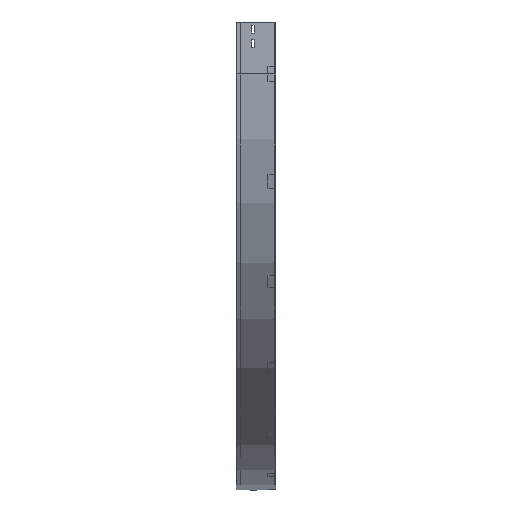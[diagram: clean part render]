
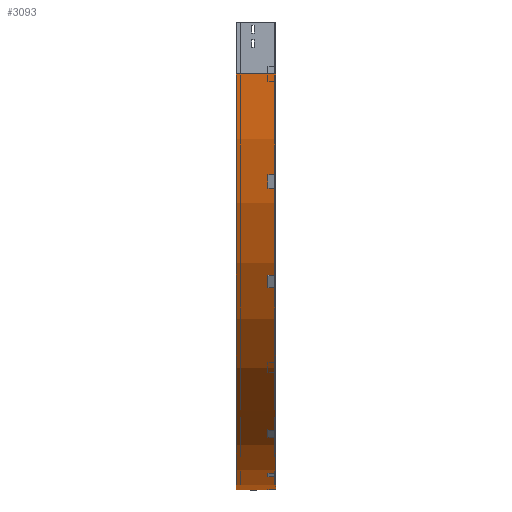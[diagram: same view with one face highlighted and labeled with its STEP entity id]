
A CAD part, left-side view. The second image highlights one B-rep face of the part: STEP entity #3093.
In plain terms, the highlighted cylindrical face has radius 1200 mm (diameter 2400 mm), a partial arc.
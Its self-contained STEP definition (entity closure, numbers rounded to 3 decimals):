
#88 = DIRECTION ( 'NONE',  ( -1., 0., 0. ) ) ;
#96 = DIRECTION ( 'NONE',  ( 0., -1., 0. ) ) ;
#223 = LINE ( 'NONE', #1124, #2115 ) ;
#416 = FACE_OUTER_BOUND ( 'NONE', #1968, .T. ) ;
#674 = DIRECTION ( 'NONE',  ( -1., 0., 0. ) ) ;
#798 = CARTESIAN_POINT ( 'NONE',  ( 0., 112.5, -150. ) ) ;
#1007 = VERTEX_POINT ( 'NONE', #1118 ) ;
#1011 = DIRECTION ( 'NONE',  ( 0., -1., 0. ) ) ;
#1020 = CARTESIAN_POINT ( 'NONE',  ( 0., 0., -150. ) ) ;
#1118 = CARTESIAN_POINT ( 'NONE',  ( 0., 0., -150. ) ) ;
#1124 = CARTESIAN_POINT ( 'NONE',  ( 1200., 0., -1350. ) ) ;
#1222 = EDGE_CURVE ( 'NONE', #1007, #3594, #1335, .T. ) ;
#1225 = ORIENTED_EDGE ( 'NONE', *, *, #3082, .T. ) ;
#1240 = LINE ( 'NONE', #1020, #1949 ) ;
#1258 = DIRECTION ( 'NONE',  ( 0., -1., 0. ) ) ;
#1335 = CIRCLE ( 'NONE', #2536, 1200. ) ;
#1349 = AXIS2_PLACEMENT_3D ( 'NONE', #2159, #1258, #674 ) ;
#1417 = AXIS2_PLACEMENT_3D ( 'NONE', #3694, #2257, #3421 ) ;
#1441 = CARTESIAN_POINT ( 'NONE',  ( 1200., 0., -1350. ) ) ;
#1863 = VERTEX_POINT ( 'NONE', #798 ) ;
#1949 = VECTOR ( 'NONE', #96, 1000. ) ;
#1968 = EDGE_LOOP ( 'NONE', ( #3761, #3437, #1225, #3372 ) ) ;
#2014 = EDGE_CURVE ( 'NONE', #1863, #1007, #1240, .T. ) ;
#2115 = VECTOR ( 'NONE', #2623, 1000. ) ;
#2159 = CARTESIAN_POINT ( 'NONE',  ( 1200., 112.5, -150. ) ) ;
#2230 = CARTESIAN_POINT ( 'NONE',  ( 1200., 0., -150. ) ) ;
#2257 = DIRECTION ( 'NONE',  ( 0., -1., 0. ) ) ;
#2363 = CIRCLE ( 'NONE', #1349, 1200. ) ;
#2536 = AXIS2_PLACEMENT_3D ( 'NONE', #2230, #1011, #88 ) ;
#2623 = DIRECTION ( 'NONE',  ( 0., -1., 0. ) ) ;
#2928 = EDGE_CURVE ( 'NONE', #3032, #3594, #223, .T. ) ;
#3032 = VERTEX_POINT ( 'NONE', #3617 ) ;
#3082 = EDGE_CURVE ( 'NONE', #1863, #3032, #2363, .T. ) ;
#3093 = ADVANCED_FACE ( 'NONE', ( #416 ), #3596, .T. ) ;
#3372 = ORIENTED_EDGE ( 'NONE', *, *, #2928, .T. ) ;
#3421 = DIRECTION ( 'NONE',  ( 0., 0., -1. ) ) ;
#3437 = ORIENTED_EDGE ( 'NONE', *, *, #2014, .F. ) ;
#3594 = VERTEX_POINT ( 'NONE', #1441 ) ;
#3596 = CYLINDRICAL_SURFACE ( 'NONE', #1417, 1200. ) ;
#3617 = CARTESIAN_POINT ( 'NONE',  ( 1200., 112.5, -1350. ) ) ;
#3694 = CARTESIAN_POINT ( 'NONE',  ( 1200., 0., -150. ) ) ;
#3761 = ORIENTED_EDGE ( 'NONE', *, *, #1222, .F. ) ;
